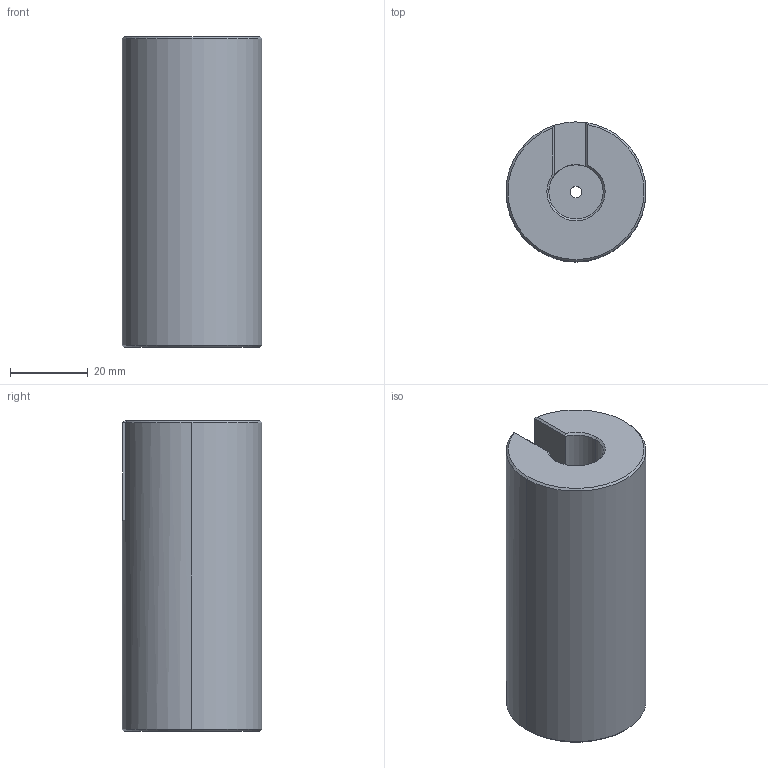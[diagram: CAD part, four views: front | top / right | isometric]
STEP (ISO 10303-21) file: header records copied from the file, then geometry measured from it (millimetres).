
FILE_DESCRIPTION(('CATIA V5 STEP Exchange'),'2;1');
FILE_NAME('C:\Users\hh\Desktop\阀体涂润滑脂治具\AGZ109 VDC补偿气缸治具\pdf+stp\AGZ109.01_V1.stp','2024-10-31T06:29:00+00:00',('none'),('none'),'CATIA Version 5 Release 21 GA (IN-10)','CATIA V5 STEP AP214','none');
FILE_SCHEMA(('AUTOMOTIVE_DESIGN { 1 0 10303 214 1 1 1 1 }'));
Length unit declared in the file: millimetre
Products named in the file (1): AGZ109.01_V1
Bounding box: 36 x 36 x 80 mm (x, y, z)
Volume: 64870.8 mm3; surface area: 14656.5 mm2
Topology: 1 solids, 1 shells, 24 faces, 55 edges, 34 vertices
Faces by surface type: plane 9, cylinder 8, cone 7
Entity records: 672 total; most frequent: CARTESIAN_POINT 123, ORIENTED_EDGE 110, DIRECTION 93, EDGE_CURVE 55, AXIS2_PLACEMENT_3D 50, VERTEX_POINT 34, CIRCLE 28, EDGE_LOOP 27
